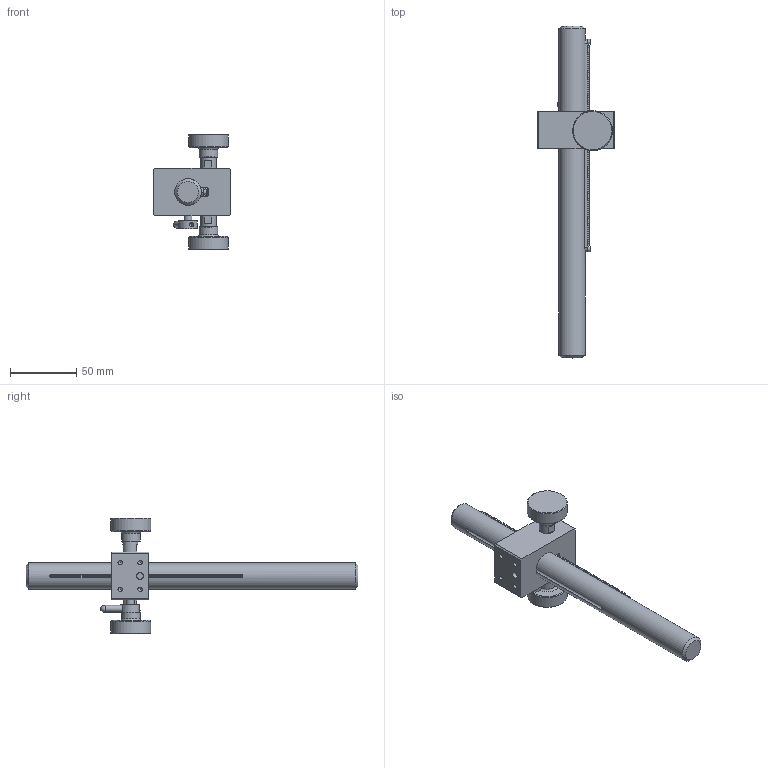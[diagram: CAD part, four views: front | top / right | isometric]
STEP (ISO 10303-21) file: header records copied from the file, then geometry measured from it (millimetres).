
FILE_DESCRIPTION (( 'STEP AP203' ), '1' );
FILE_NAME ('BZK250.STEP', '2024-08-06T01:26:49', ( 'Windows User' ), ( 'P R C' ), 'SwSTEP 2.0', 'SolidWorks 2024', '' );
FILE_SCHEMA (( 'CONFIG_CONTROL_DESIGN' ));
Products named in the file (1): BZK250
Bounding box: 58 x 250 x 87 mm (x, y, z)
Volume: 146513.1 mm3; surface area: 46451 mm2
Topology: 15 solids, 15 shells, 677 faces, 1873 edges, 1229 vertices
Faces by surface type: plane 509, cylinder 92, cone 33, bspline 33, sphere 6, torus 4
Full cylindrical faces by diameter (mm): 1.6 x3, 2 x2, 2.3 x2, 2.4 x1, 2.5 x4, 3 x1, 3.3 x7, 3.8 x2, 4 x1, 4.3 x1, 5 x3, 5.3 x1, 5.5 x1, 6 x1, 7 x5, 7.8 x2, 11.5 x2, 12.2 x2, 14 x3, 20 x1, 30 x2
Entity records: 131644 total; most frequent: CARTESIAN_POINT 115272, ORIENTED_EDGE 3482, DIRECTION 3057, EDGE_CURVE 1741, VECTOR 1355, LINE 1355, VERTEX_POINT 1192, AXIS2_PLACEMENT_3D 851
